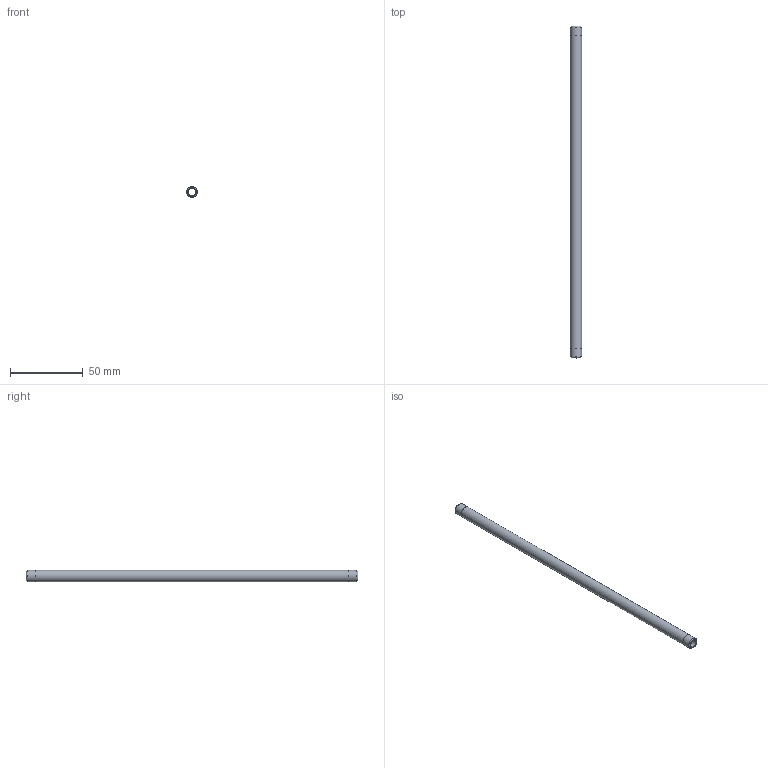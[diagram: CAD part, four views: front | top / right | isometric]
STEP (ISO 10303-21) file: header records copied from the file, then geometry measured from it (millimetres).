
FILE_DESCRIPTION(/* description */ (''),/* implementation_level */ '2;1');
FILE_NAME(/* name */ 'C:/Users/drich/Desktop/BPN16-9 v1.step',/* time_stamp */ '2020-01-03T14:43:30-06:00',/* author */ (''),/* organization */ (''),/* preprocessor_version */ 'ST-DEVELOPER v18',/* originating_system */ 'Autodesk Translation Framework v8.12.0.6',/* authorisation */ '');
FILE_SCHEMA (('AUTOMOTIVE_DESIGN { 1 0 10303 214 3 1 1 }'));
Length unit declared in the file: inch
Products named in the file (1): BPN16-9
Bounding box: 7.92 x 228.6 x 7.92 mm (x, y, z)
Volume: 6194.5 mm3; surface area: 9532.6 mm2
Topology: 1 solids, 1 shells, 10 faces, 24 edges, 18 vertices
Faces by surface type: cylinder 4, plane 4, cone 2
Full cylindrical faces by diameter (mm): 5.309 x1, 7.874 x2, 7.925 x1
Entity records: 360 total; most frequent: DIRECTION 64, CARTESIAN_POINT 53, ORIENTED_EDGE 48, AXIS2_PLACEMENT_3D 29, EDGE_CURVE 24, CIRCLE 18, VERTEX_POINT 18, EDGE_LOOP 14
